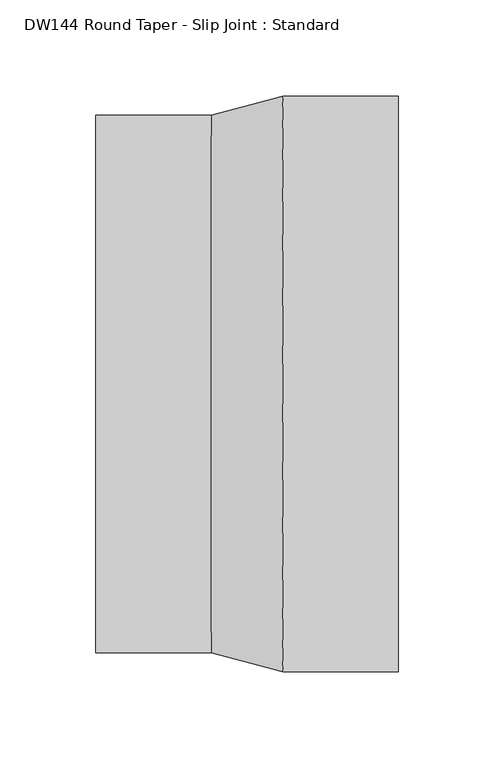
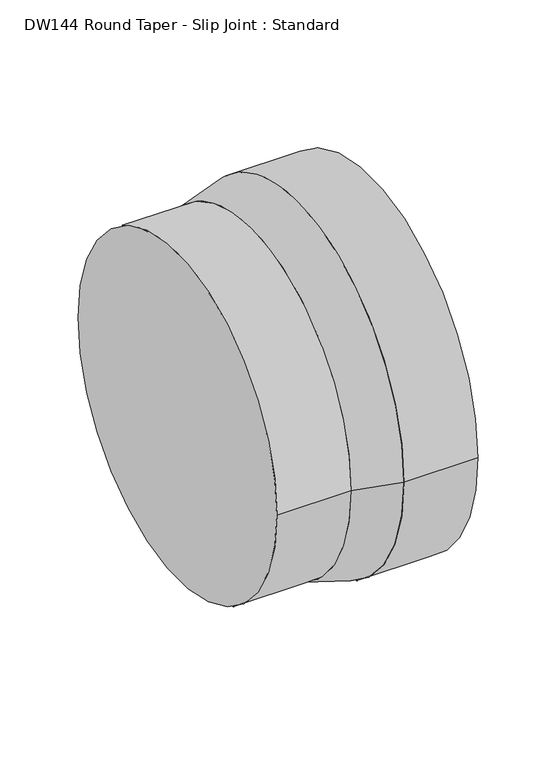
"""IFC4 building model written with IfcOpenShell, lengths in millimetres: duct fitting geometry, DW144 Round Taper - Slip Joint : Standard."""

from ifc_helpers import new_model, si_unit, point, frame, origin, origin_2d, place, context, project, spatial, polyline, circle_curve, trimmed, segment, composite_curve, outline, extrude, source, transform, mapped, element, save
from ifc_brep_helpers import plane_surface, revolved_surface, advanced_brep


def dw144_round_taper_slip_joint_standard_8611b4df(model_context):
    return source(origin(), model_context, "Body", "SolidModel", [
        extrude(outline(composite_curve([segment(trimmed(circle_curve(origin_2d(), 150.0), [point((-150.0, 0.0))], [point((150.0, 0.0))], False, "CARTESIAN"), True, "CONTINUOUS"), segment(trimmed(circle_curve(origin_2d(), 150.0), [point((150.0, 0.0))], [point((-150.0, 0.0))], False, "CARTESIAN"), True, "CONTINUOUS")], self_intersect=False)), frame((97.3205081, 0.0, 0.0), z_axis=(1.0, 0.0, 0.0), x_axis=(0.0, 1.0, 0.0)), (0.0, 0.0, 1.0), 60.0),
        extrude(outline(composite_curve([segment(trimmed(circle_curve(origin_2d(), 140.0), [point((-140.0, 0.0))], [point((140.0, 0.0))], False, "CARTESIAN"), True, "CONTINUOUS"), segment(trimmed(circle_curve(origin_2d(), 140.0), [point((140.0, 0.0))], [point((-140.0, 0.0))], False, "CARTESIAN"), True, "CONTINUOUS")], self_intersect=False)), frame((0.0, 0.0, 0.0), z_axis=(1.0, 0.0, 0.0), x_axis=(0.0, 1.0, 0.0)), (0.0, 0.0, 1.0), 60.0),
        advanced_brep(
        [(97.3205081, -150.0, 0.0), (97.3205081, 150.0, 0.0), (60.0, -140.0, 0.0), (60.0, 140.0, 0.0)],
        [
            (0, 1, circle_curve(frame((97.3205081, 0.0, 0.0), z_axis=(1.0, 0.0, 1.1345736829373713e-12), x_axis=(0.0, -1.0, 0.0)), 150.0)),
            (1, 0, circle_curve(frame((97.3205081, 0.0, 0.0), z_axis=(1.0, 0.0, 1.1345736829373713e-12), x_axis=(0.0, 1.0, 0.0)), 150.0)),
            (2, 3, circle_curve(frame((60.0, 0.0, 0.0), z_axis=(-1.0, 0.0, -1.1345736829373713e-12), x_axis=(0.0, 1.0, 0.0)), 140.0)),
            (3, 2, circle_curve(frame((60.0, 0.0, 0.0), z_axis=(-1.0, 0.0, -1.1345736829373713e-12), x_axis=(0.0, -1.0, 0.0)), 140.0)),
            (3, 1),
            (0, 2),
        ],
        [
            plane_surface(frame((97.3205081, 0.0, 0.0), z_axis=(1.0, 0.0, 0.0), x_axis=(0.0, 0.0, -1.0))),
            plane_surface(frame((60.0, 0.0, 0.0), z_axis=(-1.0, 0.0, 0.0), x_axis=(0.0, 0.0, -1.0))),
            revolved_surface(polyline([(60.0, 139.99999999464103, 0.0), (97.32050809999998, 150.0, 0.0)]), (-462.4871131, 0.0, 0.0), (1.0, 0.0, 1.1345736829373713e-12)),
            revolved_surface(polyline([(60.0, -139.99999999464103, 0.0), (97.32050809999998, -150.0, 0.0)]), (-462.4871131, 0.0, 0.0), (1.0, 0.0, 1.1345736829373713e-12)),
        ],
        [
            (0, [[1, 2]]),
            (1, [[3, 4]]),
            (2, [[-4, 5, -1, 6]]),
            (3, [[-3, -6, -2, -5]]),
        ],
    ),
    ])


if __name__ == "__main__":
    model = new_model("IFC4")
    model_context = context("Model", 3, world=origin())
    ifc_project = project(units=[si_unit("LENGTHUNIT", "METRE", prefix="MILLI")], contexts=[model_context])
    site = spatial("IfcSite", under=ifc_project)
    building = spatial("IfcBuilding", under=site)
    placement = place(None, origin())
    dw144_round_taper_slip_joint_standard_shape = dw144_round_taper_slip_joint_standard_8611b4df(model_context)
    element("IfcDuctFitting", 1, ObjectType="DW144 Round Taper - Slip Joint : Standard", at=placement, inside=building, context=model_context, shape_type="MappedRepresentation", body=[
        mapped(dw144_round_taper_slip_joint_standard_shape, transform((0.0, 0.0, 0.0), x_axis=(1.0, 0.0, 0.0), y_axis=(0.0, 1.0, 0.0), z_axis=(0.0, 0.0, 1.0))),
    ])
    save(model, "model.ifc")
